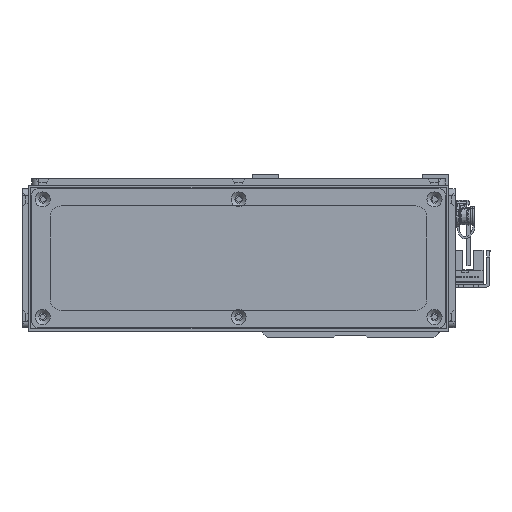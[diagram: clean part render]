
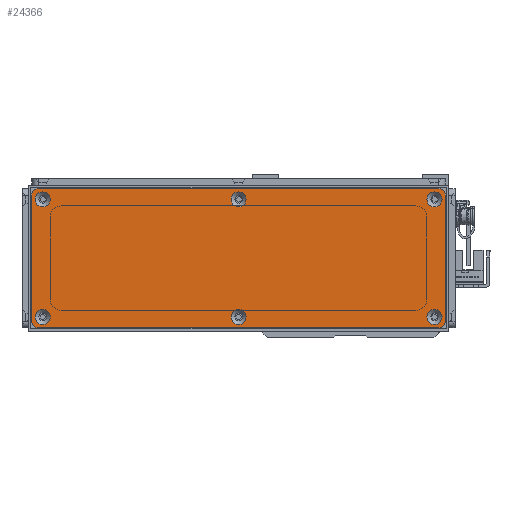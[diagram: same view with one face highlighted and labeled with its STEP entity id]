
A CAD part, left-side view. The second image highlights one B-rep face of the part: STEP entity #24366.
In plain terms, the highlighted planar face has unit normal (-1, 0, 0) as drawn and (0, 0, 1) by its records, which use the part's own axes.
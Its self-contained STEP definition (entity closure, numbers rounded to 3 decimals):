
#1116=FACE_BOUND('',#4775,.T.);
#1117=FACE_BOUND('',#4776,.T.);
#1118=FACE_BOUND('',#4777,.T.);
#1119=FACE_BOUND('',#4778,.T.);
#1120=FACE_BOUND('',#4779,.T.);
#1121=FACE_BOUND('',#4780,.T.);
#1714=PLANE('',#27400);
#3006=FACE_OUTER_BOUND('',#4774,.T.);
#4774=EDGE_LOOP('',(#22381,#22382,#22383,#22384,#22385,#22386,#22387,#22388));
#4775=EDGE_LOOP('',(#22389));
#4776=EDGE_LOOP('',(#22390));
#4777=EDGE_LOOP('',(#22391));
#4778=EDGE_LOOP('',(#22392));
#4779=EDGE_LOOP('',(#22393));
#4780=EDGE_LOOP('',(#22394));
#6743=LINE('',#42841,#8709);
#6746=LINE('',#42849,#8712);
#6749=LINE('',#42857,#8715);
#6752=LINE('',#42864,#8718);
#8709=VECTOR('',#34572,10.);
#8712=VECTOR('',#34581,10.);
#8715=VECTOR('',#34590,10.);
#8718=VECTOR('',#34599,10.);
#9977=CIRCLE('',#27354,3.45);
#9980=CIRCLE('',#27359,3.45);
#9983=CIRCLE('',#27364,3.45);
#9986=CIRCLE('',#27369,3.45);
#9989=CIRCLE('',#27374,3.45);
#9992=CIRCLE('',#27379,3.45);
#9999=CIRCLE('',#27389,3.);
#10000=CIRCLE('',#27392,3.);
#10001=CIRCLE('',#27395,3.);
#10002=CIRCLE('',#27398,3.);
#12223=VERTEX_POINT('',#42757);
#12226=VERTEX_POINT('',#42767);
#12229=VERTEX_POINT('',#42777);
#12232=VERTEX_POINT('',#42787);
#12235=VERTEX_POINT('',#42797);
#12238=VERTEX_POINT('',#42807);
#12249=VERTEX_POINT('',#42834);
#12250=VERTEX_POINT('',#42836);
#12251=VERTEX_POINT('',#42840);
#12252=VERTEX_POINT('',#42844);
#12253=VERTEX_POINT('',#42848);
#12254=VERTEX_POINT('',#42852);
#12255=VERTEX_POINT('',#42856);
#12256=VERTEX_POINT('',#42860);
#15587=EDGE_CURVE('',#12223,#12223,#9977,.T.);
#15592=EDGE_CURVE('',#12226,#12226,#9980,.T.);
#15597=EDGE_CURVE('',#12229,#12229,#9983,.T.);
#15602=EDGE_CURVE('',#12232,#12232,#9986,.T.);
#15607=EDGE_CURVE('',#12235,#12235,#9989,.T.);
#15612=EDGE_CURVE('',#12238,#12238,#9992,.T.);
#15626=EDGE_CURVE('',#12250,#12249,#9999,.T.);
#15628=EDGE_CURVE('',#12251,#12250,#6743,.T.);
#15630=EDGE_CURVE('',#12252,#12251,#10000,.T.);
#15632=EDGE_CURVE('',#12253,#12252,#6746,.T.);
#15634=EDGE_CURVE('',#12254,#12253,#10001,.T.);
#15636=EDGE_CURVE('',#12255,#12254,#6749,.T.);
#15638=EDGE_CURVE('',#12256,#12255,#10002,.T.);
#15640=EDGE_CURVE('',#12249,#12256,#6752,.T.);
#22381=ORIENTED_EDGE('',*,*,#15640,.T.);
#22382=ORIENTED_EDGE('',*,*,#15638,.T.);
#22383=ORIENTED_EDGE('',*,*,#15636,.T.);
#22384=ORIENTED_EDGE('',*,*,#15634,.T.);
#22385=ORIENTED_EDGE('',*,*,#15632,.T.);
#22386=ORIENTED_EDGE('',*,*,#15630,.T.);
#22387=ORIENTED_EDGE('',*,*,#15628,.T.);
#22388=ORIENTED_EDGE('',*,*,#15626,.T.);
#22389=ORIENTED_EDGE('',*,*,#15587,.T.);
#22390=ORIENTED_EDGE('',*,*,#15592,.T.);
#22391=ORIENTED_EDGE('',*,*,#15597,.T.);
#22392=ORIENTED_EDGE('',*,*,#15602,.T.);
#22393=ORIENTED_EDGE('',*,*,#15607,.T.);
#22394=ORIENTED_EDGE('',*,*,#15612,.T.);
#24366=ADVANCED_FACE('',(#3006,#1116,#1117,#1118,#1119,#1120,#1121),#1714,
 .T.);
#27354=AXIS2_PLACEMENT_3D('',#42758,#34480,#34481);
#27359=AXIS2_PLACEMENT_3D('',#42768,#34492,#34493);
#27364=AXIS2_PLACEMENT_3D('',#42778,#34504,#34505);
#27369=AXIS2_PLACEMENT_3D('',#42788,#34516,#34517);
#27374=AXIS2_PLACEMENT_3D('',#42798,#34528,#34529);
#27379=AXIS2_PLACEMENT_3D('',#42808,#34540,#34541);
#27389=AXIS2_PLACEMENT_3D('',#42837,#34567,#34568);
#27392=AXIS2_PLACEMENT_3D('',#42845,#34576,#34577);
#27395=AXIS2_PLACEMENT_3D('',#42853,#34585,#34586);
#27398=AXIS2_PLACEMENT_3D('',#42861,#34594,#34595);
#27400=AXIS2_PLACEMENT_3D('',#42865,#34600,#34601);
#34480=DIRECTION('center_axis',(0.,0.,-1.));
#34481=DIRECTION('ref_axis',(1.,0.,0.));
#34492=DIRECTION('center_axis',(0.,0.,-1.));
#34493=DIRECTION('ref_axis',(1.,0.,0.));
#34504=DIRECTION('center_axis',(0.,0.,-1.));
#34505=DIRECTION('ref_axis',(1.,0.,0.));
#34516=DIRECTION('center_axis',(0.,0.,-1.));
#34517=DIRECTION('ref_axis',(1.,0.,0.));
#34528=DIRECTION('center_axis',(0.,0.,-1.));
#34529=DIRECTION('ref_axis',(1.,0.,0.));
#34540=DIRECTION('center_axis',(0.,0.,-1.));
#34541=DIRECTION('ref_axis',(1.,0.,0.));
#34567=DIRECTION('center_axis',(0.,0.,1.));
#34568=DIRECTION('ref_axis',(0.,1.,0.));
#34572=DIRECTION('',(-1.,0.,0.));
#34576=DIRECTION('center_axis',(0.,0.,1.));
#34577=DIRECTION('ref_axis',(1.,0.,0.));
#34581=DIRECTION('',(0.,1.,0.));
#34585=DIRECTION('center_axis',(0.,0.,1.));
#34586=DIRECTION('ref_axis',(0.,-1.,0.));
#34590=DIRECTION('',(1.,0.,0.));
#34594=DIRECTION('center_axis',(0.,0.,1.));
#34595=DIRECTION('ref_axis',(-1.,0.,0.));
#34599=DIRECTION('',(0.,-1.,0.));
#34600=DIRECTION('center_axis',(0.,0.,1.));
#34601=DIRECTION('ref_axis',(1.,0.,0.));
#42757=CARTESIAN_POINT('',(-3.45,27.,1.5));
#42758=CARTESIAN_POINT('Origin',(0.,27.,1.5));
#42767=CARTESIAN_POINT('',(86.55,-27.,1.5));
#42768=CARTESIAN_POINT('Origin',(90.,-27.,1.5));
#42777=CARTESIAN_POINT('',(-93.45,27.,1.5));
#42778=CARTESIAN_POINT('Origin',(-90.,27.,1.5));
#42787=CARTESIAN_POINT('',(86.55,27.,1.5));
#42788=CARTESIAN_POINT('Origin',(90.,27.,1.5));
#42797=CARTESIAN_POINT('',(-93.45,-27.,1.5));
#42798=CARTESIAN_POINT('Origin',(-90.,-27.,1.5));
#42807=CARTESIAN_POINT('',(-3.45,-27.,1.5));
#42808=CARTESIAN_POINT('Origin',(0.,-27.,1.5));
#42834=CARTESIAN_POINT('',(-95.,29.,1.5));
#42836=CARTESIAN_POINT('',(-92.,32.,1.5));
#42837=CARTESIAN_POINT('Origin',(-92.,29.,1.5));
#42840=CARTESIAN_POINT('',(92.,32.,1.5));
#42841=CARTESIAN_POINT('',(92.,32.,1.5));
#42844=CARTESIAN_POINT('',(95.,29.,1.5));
#42845=CARTESIAN_POINT('Origin',(92.,29.,1.5));
#42848=CARTESIAN_POINT('',(95.,-29.,1.5));
#42849=CARTESIAN_POINT('',(95.,-29.,1.5));
#42852=CARTESIAN_POINT('',(92.,-32.,1.5));
#42853=CARTESIAN_POINT('Origin',(92.,-29.,1.5));
#42856=CARTESIAN_POINT('',(-92.,-32.,1.5));
#42857=CARTESIAN_POINT('',(-92.,-32.,1.5));
#42860=CARTESIAN_POINT('',(-95.,-29.,1.5));
#42861=CARTESIAN_POINT('Origin',(-92.,-29.,1.5));
#42864=CARTESIAN_POINT('',(-95.,29.,1.5));
#42865=CARTESIAN_POINT('Origin',(0.,0.,
1.5));
